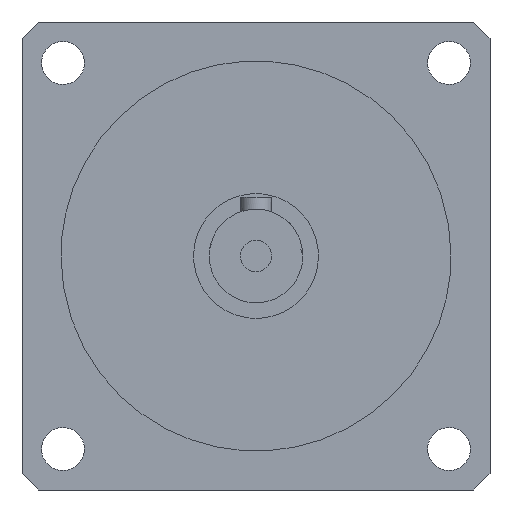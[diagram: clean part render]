
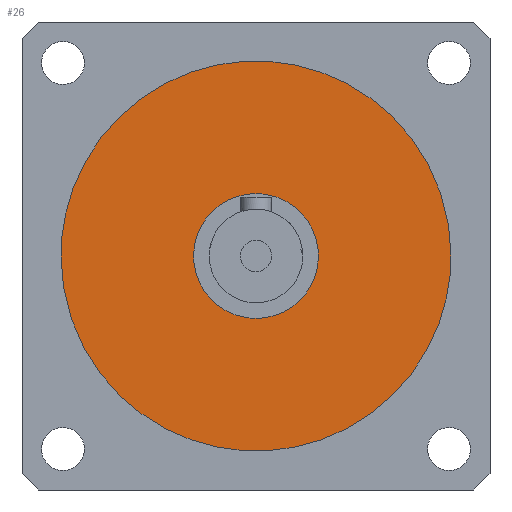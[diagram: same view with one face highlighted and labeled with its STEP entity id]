
A CAD part, front view. The second image highlights one B-rep face of the part: STEP entity #26.
In plain terms, the highlighted planar face has unit normal (0, -1, 0).
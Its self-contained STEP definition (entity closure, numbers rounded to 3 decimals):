
#26=ADVANCED_FACE('',(#92,#71),#796,.T.);
#71=FACE_BOUND('',#149,.T.);
#92=FACE_OUTER_BOUND('',#148,.T.);
#148=EDGE_LOOP('',(#246,#247));
#149=EDGE_LOOP('',(#248,#249));
#246=ORIENTED_EDGE('',*,*,#461,.T.);
#247=ORIENTED_EDGE('',*,*,#533,.T.);
#248=ORIENTED_EDGE('',*,*,#527,.F.);
#249=ORIENTED_EDGE('',*,*,#520,.F.);
#461=EDGE_CURVE('',#694,#738,#613,.T.);
#520=EDGE_CURVE('',#730,#733,#646,.T.);
#527=EDGE_CURVE('',#733,#730,#653,.T.);
#533=EDGE_CURVE('',#738,#694,#659,.T.);
#613=(
BOUNDED_CURVE()
B_SPLINE_CURVE(2,(#1626,#1627,#1628,#1629,#1630),.UNSPECIFIED.,.F.,.F.)
B_SPLINE_CURVE_WITH_KNOTS((3,2,3),(0.,39.27,78.54),
 .UNSPECIFIED.)
CURVE()
GEOMETRIC_REPRESENTATION_ITEM()
RATIONAL_B_SPLINE_CURVE((1.,0.707,1.,0.707,1.))
REPRESENTATION_ITEM('')
);
#646=(
BOUNDED_CURVE()
B_SPLINE_CURVE(2,(#1832,#1833,#1834,#1835,#1836),.UNSPECIFIED.,.F.,.F.)
B_SPLINE_CURVE_WITH_KNOTS((3,2,3),(0.,12.566,25.133),
 .UNSPECIFIED.)
CURVE()
GEOMETRIC_REPRESENTATION_ITEM()
RATIONAL_B_SPLINE_CURVE((1.,0.707,1.,0.707,1.))
REPRESENTATION_ITEM('')
);
#653=(
BOUNDED_CURVE()
B_SPLINE_CURVE(2,(#1858,#1859,#1860,#1861,#1862),.UNSPECIFIED.,.F.,.F.)
B_SPLINE_CURVE_WITH_KNOTS((3,2,3),(25.133,37.699,50.265),
 .UNSPECIFIED.)
CURVE()
GEOMETRIC_REPRESENTATION_ITEM()
RATIONAL_B_SPLINE_CURVE((1.,0.707,1.,0.707,1.))
REPRESENTATION_ITEM('')
);
#659=(
BOUNDED_CURVE()
B_SPLINE_CURVE(2,(#1882,#1883,#1884,#1885,#1886),.UNSPECIFIED.,.F.,.F.)
B_SPLINE_CURVE_WITH_KNOTS((3,2,3),(78.54,117.81,157.08),
 .UNSPECIFIED.)
CURVE()
GEOMETRIC_REPRESENTATION_ITEM()
RATIONAL_B_SPLINE_CURVE((1.,0.707,1.,0.707,1.))
REPRESENTATION_ITEM('')
);
#694=VERTEX_POINT('',#1466);
#730=VERTEX_POINT('',#1502);
#733=VERTEX_POINT('',#1505);
#738=VERTEX_POINT('',#1510);
#796=PLANE('',#833);
#833=AXIS2_PLACEMENT_3D('',#923,#853,$);
#853=DIRECTION('',(0.,-1.,0.));
#923=CARTESIAN_POINT('',(-25.5,-5.,-25.5));
#1466=CARTESIAN_POINT('',(25.,-5.,0.));
#1502=CARTESIAN_POINT('',(0.,-5.,8.));
#1505=CARTESIAN_POINT('',(0.,-5.,-8.));
#1510=CARTESIAN_POINT('',(-25.,-5.,0.));
#1626=CARTESIAN_POINT('',(25.,-5.,0.));
#1627=CARTESIAN_POINT('',(25.,-5.,25.));
#1628=CARTESIAN_POINT('',(0.,-5.,25.));
#1629=CARTESIAN_POINT('',(-25.,-5.,25.));
#1630=CARTESIAN_POINT('',(-25.,-5.,0.));
#1832=CARTESIAN_POINT('',(0.,-5.,8.));
#1833=CARTESIAN_POINT('',(-8.,-5.,8.));
#1834=CARTESIAN_POINT('',(-8.,-5.,0.));
#1835=CARTESIAN_POINT('',(-8.,-5.,-8.));
#1836=CARTESIAN_POINT('',(0.,-5.,-8.));
#1858=CARTESIAN_POINT('',(0.,-5.,-8.));
#1859=CARTESIAN_POINT('',(8.,-5.,-8.));
#1860=CARTESIAN_POINT('',(8.,-5.,0.));
#1861=CARTESIAN_POINT('',(8.,-5.,8.));
#1862=CARTESIAN_POINT('',(0.,-5.,8.));
#1882=CARTESIAN_POINT('',(-25.,-5.,0.));
#1883=CARTESIAN_POINT('',(-25.,-5.,-25.));
#1884=CARTESIAN_POINT('',(0.,-5.,-25.));
#1885=CARTESIAN_POINT('',(25.,-5.,-25.));
#1886=CARTESIAN_POINT('',(25.,-5.,0.));
